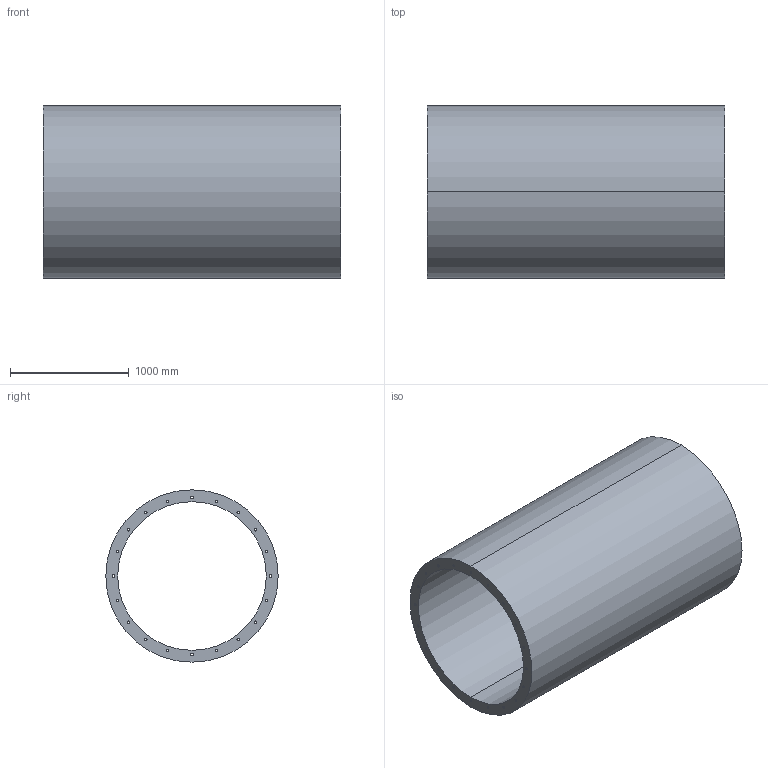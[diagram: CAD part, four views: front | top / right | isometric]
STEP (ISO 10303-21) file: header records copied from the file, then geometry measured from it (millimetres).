
FILE_DESCRIPTION(('STEP AP214'),'1');
FILE_NAME('accessory_5211813200.stp','2017-10-09T11:36:41',('TraceParts'),('TraceParts S.A.'),'Spatial InterOp 3D',' ',' ');
FILE_SCHEMA(('automotive_design'));
Length unit declared in the file: millimetre
Products named in the file (1): accessory_5211813200
Bounding box: 2500 x 1450 x 1450 mm (x, y, z)
Volume: 1044579557.3 mm3; surface area: 25183006.7 mm2
Topology: 1 solids, 1 shells, 46 faces, 132 edges, 88 vertices
Faces by surface type: cylinder 44, plane 2
Entity records: 2032 total; most frequent: DIRECTION 314, CARTESIAN_POINT 267, ORIENTED_EDGE 264, AXIS2_PLACEMENT_3D 135, EDGE_CURVE 132, EDGE_LOOP 88, VERTEX_POINT 88, CIRCLE 88
